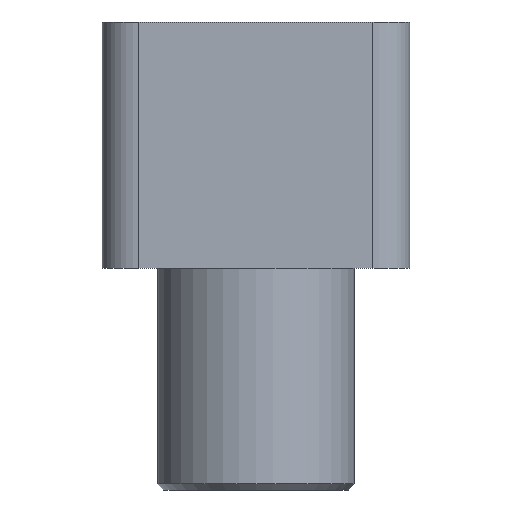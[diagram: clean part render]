
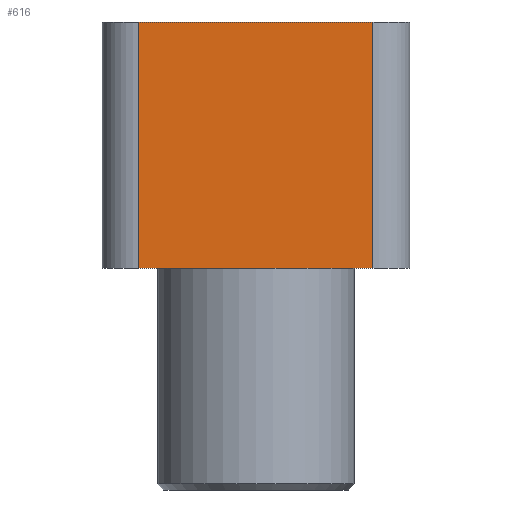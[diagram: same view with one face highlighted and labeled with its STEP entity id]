
A CAD part, front view. The second image highlights one B-rep face of the part: STEP entity #616.
In plain terms, the highlighted planar face has unit normal (0, -1, 0).
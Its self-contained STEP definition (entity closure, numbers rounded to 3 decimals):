
#596=AXIS2_PLACEMENT_3D('Plane Axis2P3D',#593,#594,#595) ;
#506=CARTESIAN_POINT('Vertex',(9.5,-10.,38.)) ;
#509=CARTESIAN_POINT('Line Origine',(9.5,-10.,28.)) ;
#513=CARTESIAN_POINT('Vertex',(9.5,-10.,18.)) ;
#572=CARTESIAN_POINT('Line Origine',(0.,-10.,38.)) ;
#576=CARTESIAN_POINT('Vertex',(-9.5,-10.,38.)) ;
#593=CARTESIAN_POINT('Axis2P3D Location',(12.5,-10.,18.)) ;
#598=CARTESIAN_POINT('Line Origine',(-9.5,-10.,28.)) ;
#602=CARTESIAN_POINT('Vertex',(-9.5,-10.,18.)) ;
#605=CARTESIAN_POINT('Line Origine',(0.,-10.,18.)) ;
#510=DIRECTION('Vector Direction',(0.,0.,1.)) ;
#573=DIRECTION('Vector Direction',(-1.,0.,0.)) ;
#594=DIRECTION('Axis2P3D Direction',(0.,1.,-0.)) ;
#595=DIRECTION('Axis2P3D XDirection',(-1.,0.,0.)) ;
#599=DIRECTION('Vector Direction',(0.,0.,1.)) ;
#606=DIRECTION('Vector Direction',(-1.,0.,0.)) ;
#511=VECTOR('Line Direction',#510,1.) ;
#574=VECTOR('Line Direction',#573,1.) ;
#600=VECTOR('Line Direction',#599,1.) ;
#607=VECTOR('Line Direction',#606,1.) ;
#611=ORIENTED_EDGE('',*,*,#604,.F.) ;
#612=ORIENTED_EDGE('',*,*,#609,.T.) ;
#613=ORIENTED_EDGE('',*,*,#515,.T.) ;
#614=ORIENTED_EDGE('',*,*,#578,.F.) ;
#616=ADVANCED_FACE('\X2\96F64EF651E04F554F53\X0\',(#615),#597,.F.) ;
#515=EDGE_CURVE('',#514,#507,#512,.T.) ;
#578=EDGE_CURVE('',#577,#507,#575,.F.) ;
#604=EDGE_CURVE('',#603,#577,#601,.T.) ;
#609=EDGE_CURVE('',#603,#514,#608,.F.) ;
#610=EDGE_LOOP('',(#611,#612,#613,#614)) ;
#615=FACE_OUTER_BOUND('',#610,.T.) ;
#512=LINE('Line',#509,#511) ;
#575=LINE('Line',#572,#574) ;
#601=LINE('Line',#598,#600) ;
#608=LINE('Line',#605,#607) ;
#597=PLANE('Plane',#596) ;
#507=VERTEX_POINT('',#506) ;
#514=VERTEX_POINT('',#513) ;
#577=VERTEX_POINT('',#576) ;
#603=VERTEX_POINT('',#602) ;
